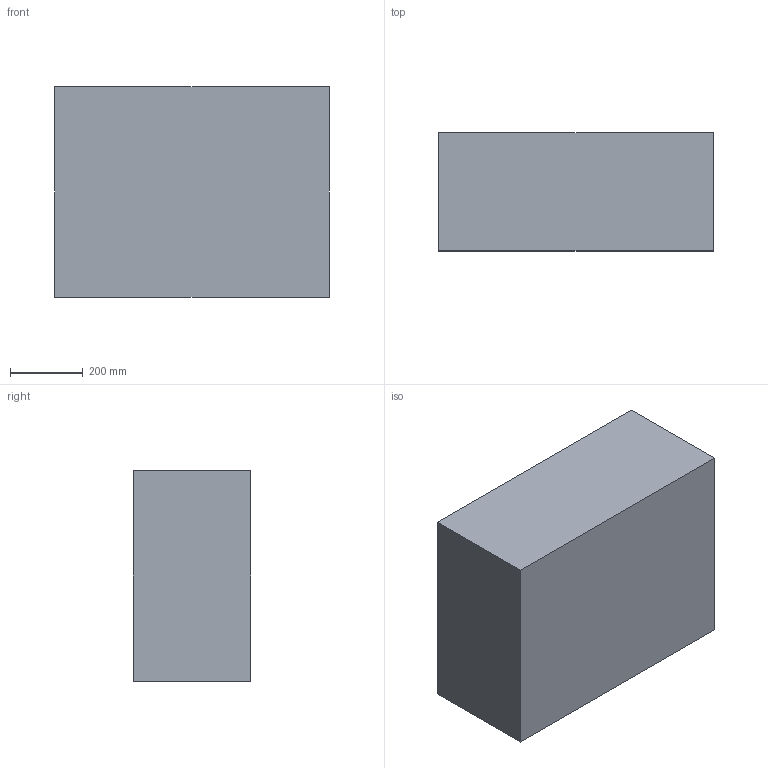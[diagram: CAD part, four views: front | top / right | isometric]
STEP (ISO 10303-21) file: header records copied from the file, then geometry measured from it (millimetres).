
FILE_DESCRIPTION (( 'STEP AP214' ), '1' );
FILE_NAME ('1630E - 932 BOTTOM PID 2-21-2025.STEP', '2025-05-22T04:51:42', ( '' ), ( '' ), 'SwSTEP 2.0', 'SolidWorks 2021', '' );
FILE_SCHEMA (( 'AUTOMOTIVE_DESIGN' ));
Length unit declared in the file: inch
Products named in the file (1): 1630E - 932 BOTTOM PID 2-21-2025
Bounding box: 756.11 x 323.85 x 578.31 mm (x, y, z)
Volume: 21095697.9 mm3; surface area: 2456817.4 mm2
Topology: 1 solids, 1 shells, 185 faces, 443 edges, 249 vertices
Faces by surface type: bspline 66, cylinder 60, plane 46, torus 9, sphere 4
Entity records: 7437 total; most frequent: CARTESIAN_POINT 3751, ORIENTED_EDGE 862, DIRECTION 649, EDGE_CURVE 431, VERTEX_POINT 249, AXIS2_PLACEMENT_3D 234, EDGE_LOOP 186, FACE_OUTER_BOUND 185
